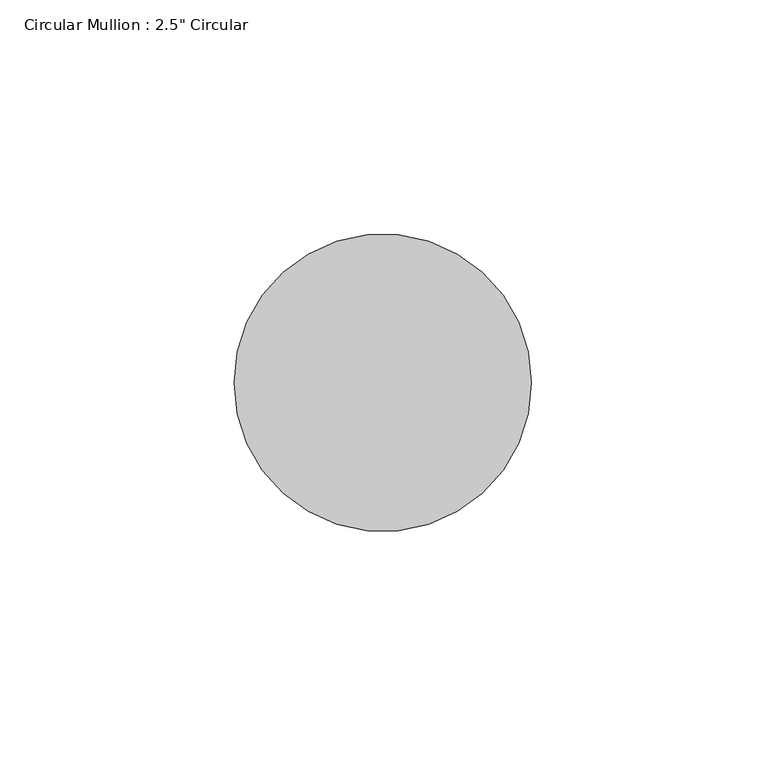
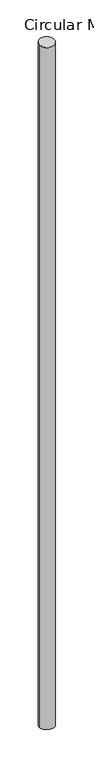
"""IFC4 building model written with IfcOpenShell, lengths in millimetres: member geometry."""

from ifc_helpers import new_model, si_unit, frame, origin, place, context, project, spatial, ellipse_curve, source, transform, mapped, element, save
from ifc_brep_helpers import plane_surface, cylinder_surface, advanced_brep


def member_70f3ef59(model_context):
    return source(origin(), model_context, "Body", "AdvancedBrep", [
        advanced_brep(
        [(-63.5, 0.0, -1.0722678), (0.0, 0.0, 0.0), (0.0, 0.0, -3044.2586415), (-63.5, 0.0, -3042.265845)],
        [
            (0, 1, ellipse_curve(frame((-31.75, 0.0, -0.5361339), z_axis=(0.01684747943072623, 0.06546752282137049, -0.9977124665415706), x_axis=(0.24865094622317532, 0.9662312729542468, 0.06760054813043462)), 31.8227957, 31.75)),
            (1, 2),
            (2, 3, ellipse_curve(frame((-31.75, 0.0, -3043.2622432), z_axis=(0.03123542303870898, 0.09156025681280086, 0.9953095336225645), x_axis=(-0.32136043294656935, -0.9420024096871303, 0.09674157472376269)), 31.8996241, 31.75)),
            (3, 0),
            (1, 0, ellipse_curve(frame((-31.75, 0.0, -0.5361339), z_axis=(0.01684747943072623, 0.06546752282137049, -0.9977124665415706), x_axis=(0.24865094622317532, 0.9662312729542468, 0.06760054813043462)), 31.8227957, 31.75)),
            (3, 2, ellipse_curve(frame((-31.75, 0.0, -3043.2622432), z_axis=(0.03123542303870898, 0.09156025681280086, 0.9953095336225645), x_axis=(-0.32136043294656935, -0.9420024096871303, 0.09674157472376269)), 31.8996241, 31.75)),
        ],
        [
            cylinder_surface(frame((-31.75, 0.0, 0.0), z_axis=(0.0, 0.0, 1.0), x_axis=(1.0, 0.0, 0.0)), 31.75),
            plane_surface(frame((295.1825319, -75.9625753, 0.0), z_axis=(-0.01684747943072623, -0.06546752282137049, 0.9977124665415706), x_axis=(-0.2486509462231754, -0.9662312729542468, -0.0676005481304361))),
            plane_surface(frame((288.4754187, -98.4122594, -3044.2586415), z_axis=(-0.031235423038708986, -0.09156025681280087, -0.9953095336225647), x_axis=(-0.32136043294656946, -0.9420024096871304, 0.09674157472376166))),
        ],
        [
            (0, [[1, 2, 3, 4]]),
            (0, [[5, -4, 6, -2]]),
            (1, [[-1, -5]]),
            (2, [[-6, -3]]),
        ],
    ),
    ])


if __name__ == "__main__":
    model = new_model("IFC4")
    model_context = context("Model", 3, world=origin())
    ifc_project = project(units=[si_unit("LENGTHUNIT", "METRE", prefix="MILLI")], contexts=[model_context])
    site = spatial("IfcSite", under=ifc_project)
    building = spatial("IfcBuilding", under=site)
    placement = place(None, origin())
    member_shape = member_70f3ef59(model_context)
    element("IfcMember", 1, ObjectType="Circular Mullion : 2.5\" Circular", at=placement, inside=building, context=model_context, shape_type="MappedRepresentation", body=[
        mapped(member_shape, transform((0.0, 0.0, 0.0), x_axis=(1.0, 0.0, 0.0), y_axis=(0.0, 1.0, 0.0), z_axis=(0.0, 0.0, 1.0))),
    ])
    save(model, "model.ifc")
